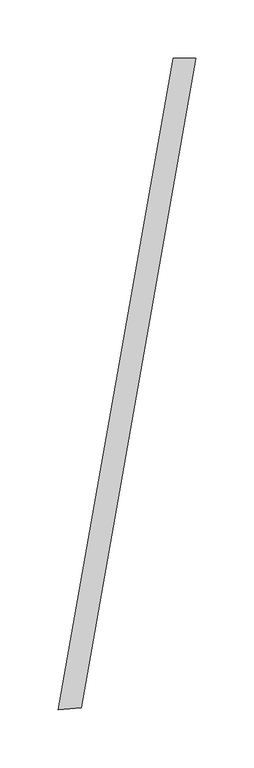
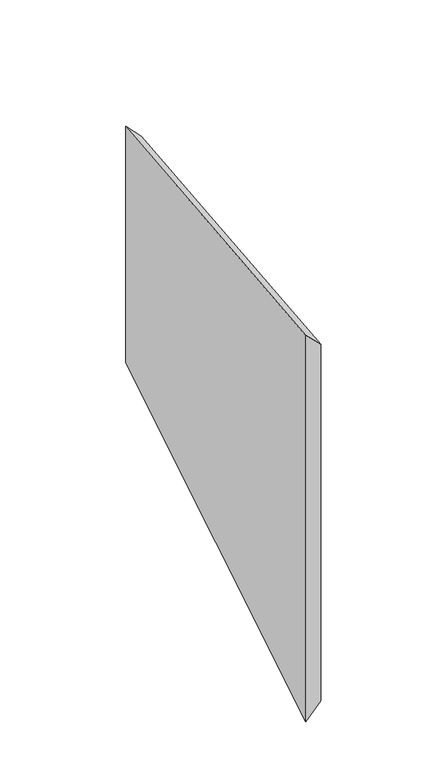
"""IFC4 building model written with IfcOpenShell, lengths in millimetres: proxy geometry, GRADIENT^TABLE 5_PRISM BASE-LT END TOP."""

from ifc_helpers import new_model, si_unit, origin, place, context, project, spatial, faceted_brep, source, transform, mapped, element, save


def generic_models_aa2f0f71(model_context):
    return source(origin(), model_context, "Body", "Brep", [
        faceted_brep([(457.2, -558.8, -355.6), (476.846963, -557.0811135, -375.246963), (575.0753938, 0.0, -473.4753938), (555.7315168, 0.0, -454.1315168), (476.846963, -557.0811135, -843.953037), (575.0753938, 0.0, -745.7246062), (457.2, -558.8, -863.6), (555.7315168, 0.0, -765.0684832)], [[[0, 1, 2, 3]], [[2, 1, 4, 5]], [[1, 0, 6, 4]], [[0, 3, 7, 6]], [[3, 2, 5, 7]], [[4, 6, 7, 5]]]),
    ])


if __name__ == "__main__":
    model = new_model("IFC4")
    model_context = context("Model", 3, world=origin())
    ifc_project = project(units=[si_unit("LENGTHUNIT", "METRE", prefix="MILLI")], contexts=[model_context])
    site = spatial("IfcSite", under=ifc_project)
    building = spatial("IfcBuilding", under=site)
    placement = place(None, origin())
    generic_models_shape = generic_models_aa2f0f71(model_context)
    element("IfcBuildingElementProxy", 1, Name="GRADIENT^TABLE 5_PRISM BASE-LT END TOP", ObjectType="GRADIENT^TABLE 5_PRISM BASE-LT END TOP", at=placement, inside=building, context=model_context, shape_type="MappedRepresentation", body=[
        mapped(generic_models_shape, transform((0.0, 0.0, 0.0), x_axis=(1.0, 0.0, 0.0), y_axis=(0.0, 1.0, 0.0), z_axis=(0.0, 0.0, 1.0))),
    ])
    save(model, "model.ifc")
